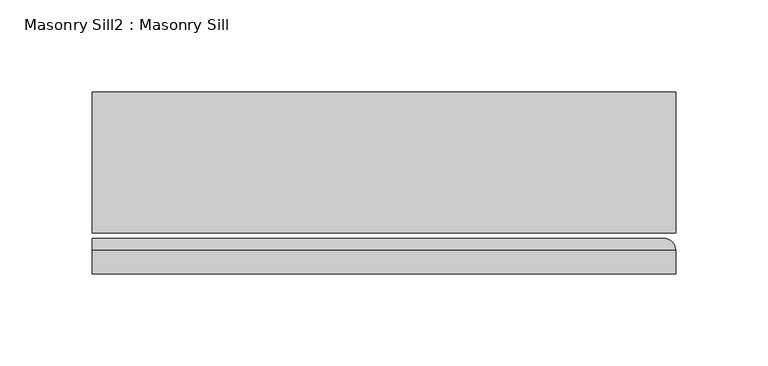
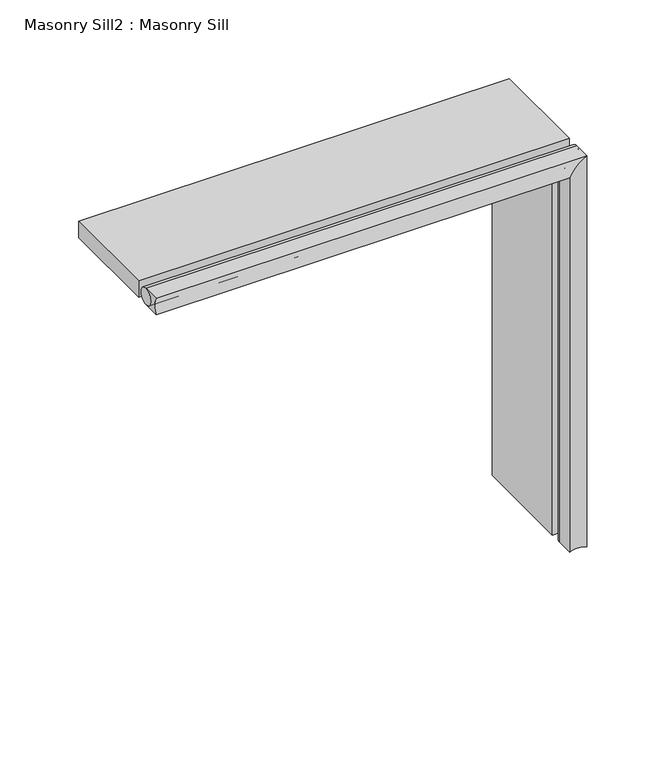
"""IFC4 building model written with IfcOpenShell, lengths in millimetres: proxy geometry, Masonry Sill2 : Masonry Sill."""

from ifc_helpers import new_model, si_unit, frame, origin, origin_with_axes, place, context, project, spatial, polyline, circle_curve, ellipse_curve, outline, extrude, source, transform, mapped, element, save
from ifc_brep_helpers import plane_surface, cylinder_surface, revolved_surface, advanced_brep


def masonry_sill2_masonry_sill_baa15611(model_context):
    return source(origin(), model_context, "Body", "SolidModel", [
        advanced_brep(
        [(26539.9726773, 633.9816297, 303.2125), (26539.9726773, 646.6816297, 303.2125), (26539.9726773, 646.6816297, 290.5125), (26539.9726773, 633.9816297, 290.5125), (26855.8851773, 633.9816297, 0.0), (26843.1851773, 633.9816297, 0.0), (26843.1851773, 646.6816297, 0.0), (26855.8851773, 646.6816297, 0.0), (26855.8851773, 633.9816297, 303.2125), (26855.8851773, 646.6816297, 303.2125), (26843.1851773, 646.6816297, 290.5125), (26843.1851773, 633.9816297, 290.5125)],
        [
            (0, 1),
            (1, 2, circle_curve(frame((26539.9726773, 646.6816297, 296.8625), z_axis=(1.0, 0.0, 0.0), x_axis=(0.0, 0.0, -1.0)), 6.35)),
            (2, 3),
            (3, 0, circle_curve(frame((26539.9726773, 622.983107, 296.8625), z_axis=(1.0, 0.0, 0.0), x_axis=(0.0, 0.0, -1.0)), 12.7)),
            (4, 5, circle_curve(frame((26849.5351773, 622.983107, 0.0), z_axis=(0.0, 0.0, 1.0), x_axis=(-1.0, 0.0, 0.0)), 12.7)),
            (5, 6),
            (6, 7, circle_curve(frame((26849.5351773, 646.6816297, 0.0), z_axis=(0.0, 0.0, 1.0), x_axis=(-1.0, 0.0, 0.0)), 6.35)),
            (7, 4),
            (0, 8),
            (8, 9),
            (9, 1),
            (9, 10, ellipse_curve(frame((26849.5351773, 646.6816297, 296.8625), z_axis=(0.7071067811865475, 0.0, -0.7071067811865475), x_axis=(0.7071067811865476, 0.0, 0.7071067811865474)), 8.9802561, 6.35)),
            (10, 2),
            (10, 11),
            (11, 3),
            (11, 8, ellipse_curve(frame((26849.5351773, 622.983107, 296.8625), z_axis=(0.7071067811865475, 0.0, -0.7071067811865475), x_axis=(0.7071067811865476, 0.0, 0.7071067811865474)), 17.9605122, 12.7)),
            (8, 4),
            (7, 9),
            (6, 10),
            (5, 11),
        ],
        [
            plane_surface(frame((26539.9726773, 656.2066297, 290.5125), z_axis=(-1.0, 0.0, 0.0), x_axis=(0.0, -1.0, 0.0))),
            plane_surface(frame((26843.1851773, 656.2066297, 0.0), z_axis=(0.0, 0.0, -1.0), x_axis=(0.0, -1.0, 0.0))),
            plane_surface(frame((26539.9726773, 633.9816297, 303.2125), z_axis=(0.0, 0.0, 1.0), x_axis=(1.0, 0.0, 0.0))),
            revolved_surface(polyline([(26855.8851773, 646.6816297, 290.5125), (26539.9726773, 646.6816297, 290.5125)]), (26539.9726773, 646.6816297, 296.8625), (1.0, 0.0, 0.0)),
            plane_surface(frame((26539.9726773, 646.6816297, 290.5125), z_axis=(0.0, 0.0, -1.0), x_axis=(1.0, 0.0, 0.0))),
            revolved_surface(polyline([(26862.235177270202, 622.983107, 284.1625), (26539.9726773, 622.983107, 284.1625)]), (26539.9726773, 622.983107, 296.8625), (1.0, 0.0, 0.0)),
            plane_surface(frame((26855.8851773, 633.9816297, 303.2125), z_axis=(1.0, 0.0, 0.0), x_axis=(0.0, 0.0, -1.0))),
            revolved_surface(polyline([(26843.1851773, 646.6816297, 0.0), (26843.1851773, 646.6816297, 303.2125)]), (26849.5351773, 646.6816297, 290.5125), (0.0, 0.0, -1.0)),
            plane_surface(frame((26843.1851773, 646.6816297, 290.5125), z_axis=(-1.0, 0.0, 0.0), x_axis=(0.0, 0.0, -1.0))),
            revolved_surface(polyline([(26836.8351773, 622.983107, 0.0), (26836.8351773, 622.983107, 309.5624999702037)]), (26849.5351773, 622.983107, 290.5125), (0.0, 0.0, -1.0)),
        ],
        [
            (0, [[1, 2, 3, 4]]),
            (1, [[5, 6, 7, 8]]),
            (2, [[-1, 9, 10, 11]]),
            (3, [[-2, -11, 12, 13]]),
            (4, [[-3, -13, 14, 15]]),
            (5, [[-4, -15, 16, -9]]),
            (6, [[-10, 17, -8, 18]]),
            (7, [[-12, -18, -7, 19]]),
            (8, [[-14, -19, -6, 20]]),
            (9, [[-16, -20, -5, -17]]),
        ],
    ),
        advanced_brep(
        [(26539.9726773, 646.6816297, 303.2125), (26539.9726773, 646.6816297, 290.5125), (26855.8851773, 646.6816297, 303.2125), (26843.1851773, 646.6816297, 290.5125), (26855.8851773, 646.6816297, 0.0), (26843.1851773, 646.6816297, 0.0)],
        [
            (0, 1, circle_curve(frame((26539.9726773, 646.6816297, 296.8625), z_axis=(-1.0, 0.0, 0.0), x_axis=(0.0, 0.0, -1.0)), 6.35)),
            (1, 0, circle_curve(frame((26539.9726773, 646.6816297, 296.8625), z_axis=(-1.0, 0.0, 0.0), x_axis=(0.0, 0.0, -1.0)), 6.35)),
            (0, 2),
            (2, 3, ellipse_curve(frame((26849.5351773, 646.6816297, 296.8625), z_axis=(-0.7071067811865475, 0.0, 0.7071067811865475), x_axis=(-0.7071067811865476, 0.0, -0.7071067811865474)), 8.9802561, 6.35)),
            (3, 1),
            (3, 2, ellipse_curve(frame((26849.5351773, 646.6816297, 296.8625), z_axis=(-0.7071067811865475, 0.0, 0.7071067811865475), x_axis=(-0.7071067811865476, 0.0, -0.7071067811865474)), 8.9802561, 6.35)),
            (4, 5, circle_curve(frame((26849.5351773, 646.6816297, 0.0), z_axis=(0.0, 0.0, -1.0), x_axis=(-1.0, 0.0, 0.0)), 6.35)),
            (5, 4, circle_curve(frame((26849.5351773, 646.6816297, 0.0), z_axis=(0.0, 0.0, -1.0), x_axis=(-1.0, 0.0, 0.0)), 6.35)),
            (2, 4),
            (5, 3),
        ],
        [
            plane_surface(frame((26539.9726773, 656.2066297, 290.5125), z_axis=(-1.0, 0.0, 0.0), x_axis=(0.0, -1.0, 0.0))),
            cylinder_surface(frame((26539.9726773, 646.6816297, 296.8625), z_axis=(-1.0, 0.0, 0.0), x_axis=(0.0, 0.0, -1.0)), 6.35),
            plane_surface(frame((26843.1851773, 656.2066297, 0.0), z_axis=(0.0, 0.0, -1.0), x_axis=(0.0, -1.0, 0.0))),
            cylinder_surface(frame((26849.5351773, 646.6816297, 290.5125), z_axis=(0.0, 0.0, 1.0), x_axis=(-1.0, 0.0, 0.0)), 6.35),
        ],
        [
            (0, [[1, 2]]),
            (1, [[-1, 3, 4, 5]]),
            (1, [[-2, -5, 6, -3]]),
            (2, [[7, 8]]),
            (3, [[-4, 9, -8, 10]]),
            (3, [[-6, -10, -7, -9]]),
        ],
    ),
        extrude(outline(polyline([(26855.8851773, 656.2066297), (26843.1851773, 656.2066297), (26843.1851773, 732.4066297), (26855.8851773, 732.4066297), (26855.8851773, 656.2066297)])), origin_with_axes(), (0.0, 0.0, 1.0), 290.5125),
        extrude(outline(polyline([(26539.9726773, 656.2066297), (26539.9726773, 732.4066297), (26855.8851773, 732.4066297), (26855.8851773, 656.2066297), (26539.9726773, 656.2066297)])), frame((0.0, 0.0, 290.5125), z_axis=(0.0, 0.0, 1.0), x_axis=(1.0, 0.0, 0.0)), (0.0, 0.0, 1.0), 12.7),
    ])


if __name__ == "__main__":
    model = new_model("IFC4")
    model_context = context("Model", 3, world=origin())
    ifc_project = project(units=[si_unit("LENGTHUNIT", "METRE", prefix="MILLI")], contexts=[model_context])
    site = spatial("IfcSite", under=ifc_project)
    building = spatial("IfcBuilding", under=site)
    placement = place(None, origin())
    masonry_sill2_masonry_sill_shape = masonry_sill2_masonry_sill_baa15611(model_context)
    element("IfcBuildingElementProxy", 1, Name="Masonry Sill2 : Masonry Sill", ObjectType="Masonry Sill2 : Masonry Sill", at=placement, inside=building, context=model_context, shape_type="MappedRepresentation", body=[
        mapped(masonry_sill2_masonry_sill_shape, transform((0.0, 0.0, 0.0), x_axis=(1.0, 0.0, 0.0), y_axis=(0.0, 1.0, 0.0), z_axis=(0.0, 0.0, 1.0))),
    ])
    save(model, "model.ifc")
